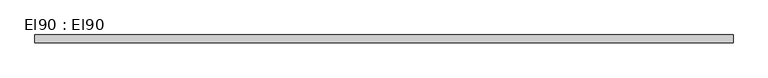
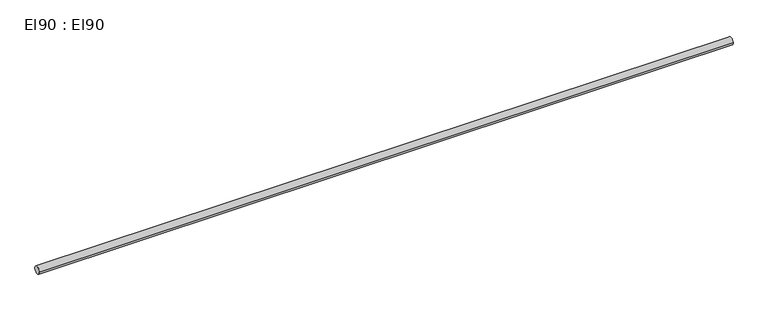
"""IFC4 building model written with IfcOpenShell, lengths in millimetres: cable carrier segment geometry, El90 : El90."""

from ifc_helpers import new_model, si_unit, point, frame, frame_2d, origin, place, context, project, spatial, circle_curve, trimmed, segment, composite_curve, outline, extrude, source, transform, mapped, element, save


def el90_el90_10dd7263(model_context):
    return source(origin(), model_context, "Body", "SweptSolid", [
        extrude(outline(composite_curve([segment(trimmed(circle_curve(frame_2d((15372.1, 300.0)), 9.5), [point((15362.6, 300.0))], [point((15381.6, 300.0))], False, "CARTESIAN"), True, "CONTINUOUS"), segment(trimmed(circle_curve(frame_2d((15372.1, 300.0)), 9.5), [point((15381.6, 300.0))], [point((15362.6, 300.0))], False, "CARTESIAN"), True, "CONTINUOUS")], self_intersect=False)), frame((21998.06, 0.0, 0.0), z_axis=(1.0, 0.0, 0.0), x_axis=(0.0, 1.0, 0.0)), (0.0, 0.0, 1.0), 1706.28),
    ])


if __name__ == "__main__":
    model = new_model("IFC4")
    model_context = context("Model", 3, world=origin())
    ifc_project = project(units=[si_unit("LENGTHUNIT", "METRE", prefix="MILLI")], contexts=[model_context])
    site = spatial("IfcSite", under=ifc_project)
    building = spatial("IfcBuilding", under=site)
    placement = place(None, origin())
    el90_el90_shape = el90_el90_10dd7263(model_context)
    element("IfcCableCarrierSegment", 1, ObjectType="El90 : El90", at=placement, inside=building, context=model_context, shape_type="MappedRepresentation", body=[
        mapped(el90_el90_shape, transform((0.0, 0.0, 0.0), x_axis=(1.0, 0.0, 0.0), y_axis=(0.0, 1.0, 0.0), z_axis=(0.0, 0.0, 1.0))),
    ])
    save(model, "model.ifc")
